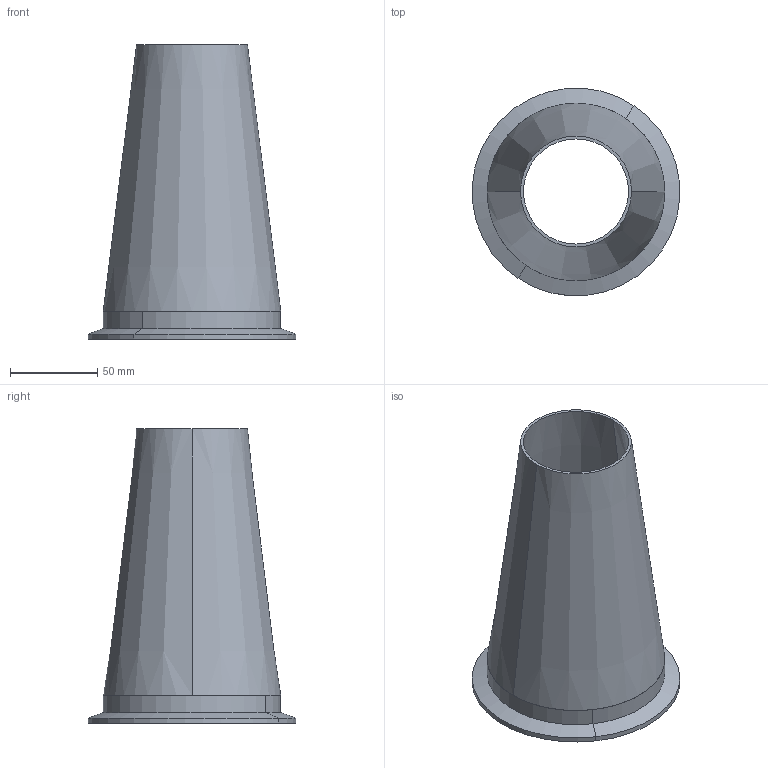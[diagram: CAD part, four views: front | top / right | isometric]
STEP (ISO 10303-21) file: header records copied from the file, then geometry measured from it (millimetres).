
FILE_DESCRIPTION (( 'STEP AP203' ), '1' );
FILE_NAME ('E31CW 4.0X2.5.STEP', '2021-10-18T18:58:22', ( '' ), ( '' ), 'SwSTEP 2.0', 'SolidWorks 2021', '' );
FILE_SCHEMA (( 'CONFIG_CONTROL_DESIGN' ));
Length unit declared in the file: inch
Products named in the file (3): EG2CS4.0; E31WW4.0x2.5; E31CW 4.0X2.5
Assembly tree (2 placements, depth 2):
  E31CW 4.0X2.5
    E31WW4.0x2.5
    EG2CS4.0
Bounding box: 118.64 x 118.64 x 168.28 mm (x, y, z)
Volume: 87221.4 mm3; surface area: 95818.5 mm2
Topology: 2 solids, 2 shells, 23 faces, 46 edges, 28 vertices
Faces by surface type: cone 6, cylinder 6, torus 6, plane 5
Entity records: 929 total; most frequent: DIRECTION 136, CARTESIAN_POINT 102, ORIENTED_EDGE 92, AXIS2_PLACEMENT_3D 62, EDGE_CURVE 46, CIRCLE 34, VERTEX_POINT 28, EDGE_LOOP 28
